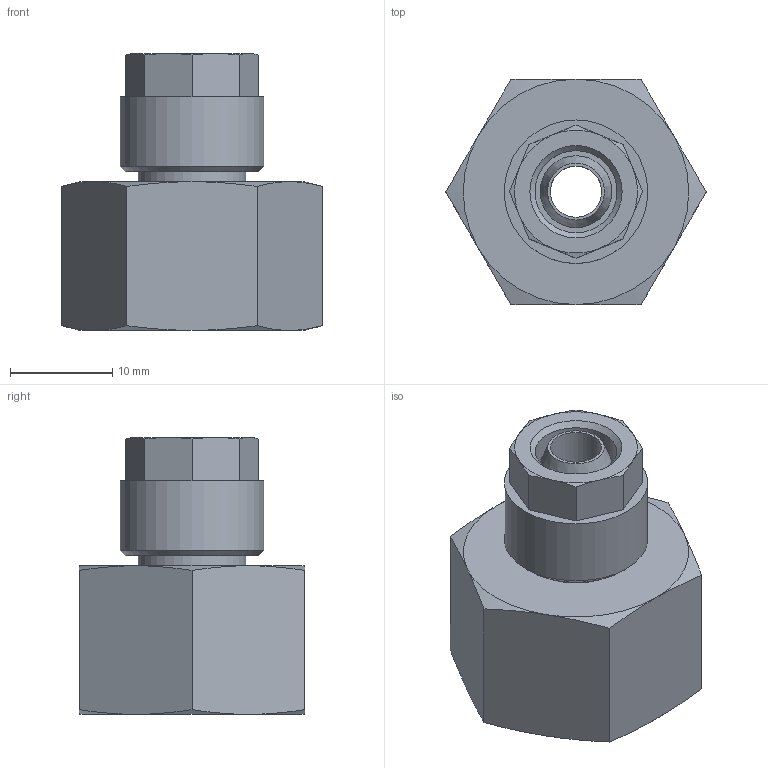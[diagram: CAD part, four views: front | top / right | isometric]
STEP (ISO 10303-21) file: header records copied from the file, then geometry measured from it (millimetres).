
FILE_DESCRIPTION(/* description */ (''),/* implementation_level */ '2;1');
FILE_NAME(/* name */ '10307_302_86_G38_26.06.17',/* time_stamp */ '2017-06-26T14:54:23+02:00',/* author */ (''),/* organization */ (''),/* preprocessor_version */ 'ST-DEVELOPER v16.5',/* originating_system */ 'HiCAD 2016 2102.2 Build 618',/* authorisation */ '');
FILE_SCHEMA (('AUTOMOTIVE_DESIGN { 1 0 10303 214 1 1 1 1 }'));
Length unit declared in the file: millimetre
Products named in the file (3): Root; 17006; R10307
Assembly tree (2 placements, depth 2):
  Root
    17006
    R10307
Bounding box: 25.4 x 22 x 27 mm (x, y, z)
Volume: 5404.4 mm3; surface area: 4033.7 mm2
Topology: 2 solids, 2 shells, 61 faces, 134 edges, 83 vertices
Faces by surface type: cone 29, plane 23, cylinder 8, torus 1
Full cylindrical faces by diameter (mm): 5 x1, 6.5 x1, 8 x1, 10.5 x1, 10.773 x1, 12 x1, 14 x1, 14.95 x1
Entity records: 2665 total; most frequent: DIRECTION 322, CARTESIAN_POINT 246, PRESENTATION_STYLE_ASSIGNMENT 216, COLOUR_RGB 215, DRAUGHTING_PRE_DEFINED_CURVE_FONT 214, CURVE_STYLE 214, OVER_RIDING_STYLED_ITEM 214, ORIENTED_EDGE 214
